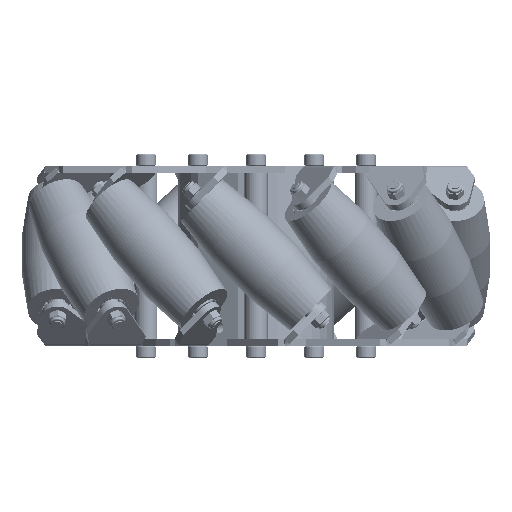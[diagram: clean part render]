
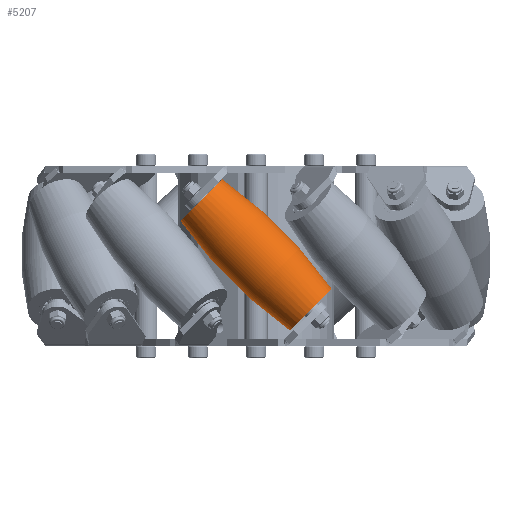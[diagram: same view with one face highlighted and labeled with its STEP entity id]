
A CAD part, front view. The second image highlights one B-rep face of the part: STEP entity #5207.
In plain terms, the highlighted toroidal (fillet/blend) face has major radius 185.94 mm and minor radius 201.54 mm.
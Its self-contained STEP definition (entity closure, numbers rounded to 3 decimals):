
#2619 = AXIS2_PLACEMENT_3D ( 'NONE', #2682, #2681, #2680 ) ;
#2629 = CIRCLE ( 'NONE', #2619, 12.796 ) ;
#2650 = DIRECTION ( 'NONE',  ( -0.707, 0., 0.707 ) ) ;
#2651 = DIRECTION ( 'NONE',  ( -0.707, 0., -0.707 ) ) ;
#2652 = CARTESIAN_POINT ( 'NONE',  ( -14.64, 86., -32.736 ) ) ;
#2653 = DIRECTION ( 'NONE',  ( -0.707, 0., -0.707 ) ) ;
#2654 = CIRCLE ( 'NONE', #2701, 201.54 ) ;
#2655 = CARTESIAN_POINT ( 'NONE',  ( 32.736, 86., 14.64 ) ) ;
#2656 = FACE_OUTER_BOUND ( 'NONE', #5119, .T. ) ;
#2657 = AXIS2_PLACEMENT_3D ( 'NONE', #2672, #2651, #2650 ) ;
#2658 = DIRECTION ( 'NONE',  ( 0., 0., -1. ) ) ;
#2659 = DIRECTION ( 'NONE',  ( 0., -1., 0. ) ) ;
#2660 = CARTESIAN_POINT ( 'NONE',  ( 131.479, 86., -131.479 ) ) ;
#2661 = AXIS2_PLACEMENT_3D ( 'NONE', #2660, #2659, #2658 ) ;
#2662 = CIRCLE ( 'NONE', #2661, 201.54 ) ;
#2669 = CARTESIAN_POINT ( 'NONE',  ( -32.736, 86., -14.64 ) ) ;
#2672 = CARTESIAN_POINT ( 'NONE',  ( -23.688, 86., -23.688 ) ) ;
#2675 = CIRCLE ( 'NONE', #2657, 12.796 ) ;
#2680 = DIRECTION ( 'NONE',  ( -0.707, 0., 0.707 ) ) ;
#2681 = DIRECTION ( 'NONE',  ( -0.707, 0., -0.707 ) ) ;
#2682 = CARTESIAN_POINT ( 'NONE',  ( 23.688, 86., 23.688 ) ) ;
#2695 = DIRECTION ( 'NONE',  ( -1., 0., 0. ) ) ;
#2696 = DIRECTION ( 'NONE',  ( 0., 1., 0. ) ) ;
#2697 = CARTESIAN_POINT ( 'NONE',  ( -131.479, 86., 131.479 ) ) ;
#2701 = AXIS2_PLACEMENT_3D ( 'NONE', #2697, #2696, #2695 ) ;
#2702 = DIRECTION ( 'NONE',  ( -0.707, 0., 0.707 ) ) ;
#2705 = CARTESIAN_POINT ( 'NONE',  ( 14.64, 86., 32.736 ) ) ;
#2709 = AXIS2_PLACEMENT_3D ( 'NONE', #2710, #2653, #2702 ) ;
#2710 = CARTESIAN_POINT ( 'NONE',  ( 0., 86., 0. ) ) ;
#2712 = TOROIDAL_SURFACE ( 'NONE', #2709, -185.94, 201.54 ) ;
#5115 = EDGE_CURVE ( 'NONE', #5241, #5177, #2629, .T. ) ;
#5119 = EDGE_LOOP ( 'NONE', ( #5175, #5120, #5394, #5235 ) ) ;
#5120 = ORIENTED_EDGE ( 'NONE', *, *, #5239, .T. ) ;
#5143 = EDGE_CURVE ( 'NONE', #5241, #5144, #2662, .T. ) ;
#5144 = VERTEX_POINT ( 'NONE', #2669 ) ;
#5145 = EDGE_CURVE ( 'NONE', #5144, #5176, #2675, .T. ) ;
#5175 = ORIENTED_EDGE ( 'NONE', *, *, #5115, .T. ) ;
#5176 = VERTEX_POINT ( 'NONE', #2652 ) ;
#5177 = VERTEX_POINT ( 'NONE', #2655 ) ;
#5207 = ADVANCED_FACE ( 'NONE', ( #2656 ), #2712, .T. ) ;
#5235 = ORIENTED_EDGE ( 'NONE', *, *, #5143, .F. ) ;
#5239 = EDGE_CURVE ( 'NONE', #5177, #5176, #2654, .T. ) ;
#5241 = VERTEX_POINT ( 'NONE', #2705 ) ;
#5394 = ORIENTED_EDGE ( 'NONE', *, *, #5145, .F. ) ;
